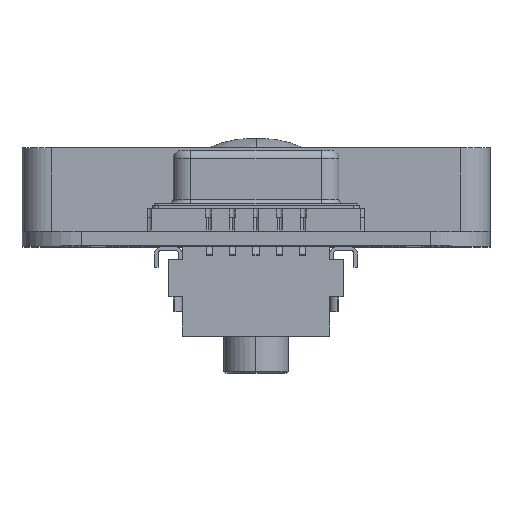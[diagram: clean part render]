
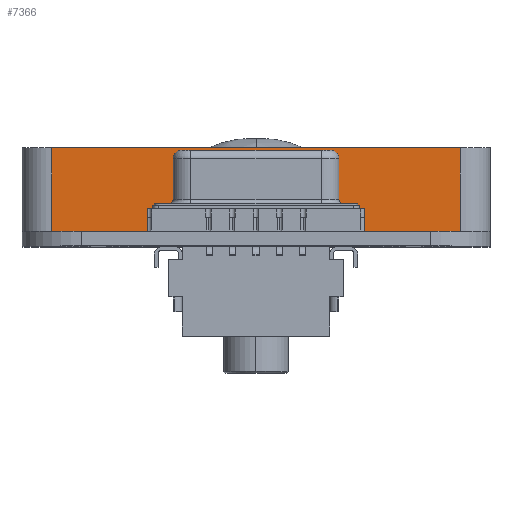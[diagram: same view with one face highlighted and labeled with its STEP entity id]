
A CAD part, top view. The second image highlights one B-rep face of the part: STEP entity #7366.
In plain terms, the highlighted planar face has unit normal (0, 0, 1).
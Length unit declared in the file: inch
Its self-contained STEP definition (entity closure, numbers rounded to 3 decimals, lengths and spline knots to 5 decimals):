
#75 = ORIENTED_EDGE ( 'NONE', *, *, #20145, .F. ) ;
#1526 = AXIS2_PLACEMENT_3D ( 'NONE', #3062, #18305, #5241 ) ;
#3062 = CARTESIAN_POINT ( 'NONE',  ( -0.49409, 0.20842, 0.34843 ) ) ;
#3820 = VECTOR ( 'NONE', #25554, 39.37008 ) ;
#5241 = DIRECTION ( 'NONE',  ( -1., 0., 0. ) ) ;
#5549 = ORIENTED_EDGE ( 'NONE', *, *, #14847, .T. ) ;
#6888 = VERTEX_POINT ( 'NONE', #12246 ) ;
#7366 = ADVANCED_FACE ( 'NONE', ( #13708 ), #7369, .F. ) ;
#7369 = PLANE ( 'NONE',  #1526 ) ;
#7390 = CARTESIAN_POINT ( 'NONE',  ( -0.49409, 0.20842, 0.34843 ) ) ;
#7470 = VECTOR ( 'NONE', #8503, 39.37008 ) ;
#8135 = LINE ( 'NONE', #14992, #7470 ) ;
#8503 = DIRECTION ( 'NONE',  ( 0., -1., 0. ) ) ;
#8669 = CARTESIAN_POINT ( 'NONE',  ( -0.43159, 0.03125, 0.34843 ) ) ;
#8888 = VERTEX_POINT ( 'NONE', #8669 ) ;
#9351 = VECTOR ( 'NONE', #11951, 39.37008 ) ;
#9565 = DIRECTION ( 'NONE',  ( 1., 0., 0. ) ) ;
#9848 = CARTESIAN_POINT ( 'NONE',  ( -0.43159, 0.20842, 0.34843 ) ) ;
#11363 = CARTESIAN_POINT ( 'NONE',  ( -0.43159, 0.20842, 0.34843 ) ) ;
#11837 = EDGE_CURVE ( 'NONE', #8888, #12984, #26122, .T. ) ;
#11951 = DIRECTION ( 'NONE',  ( 0., 1., 0. ) ) ;
#12246 = CARTESIAN_POINT ( 'NONE',  ( 0.43159, 0.03125, 0.34843 ) ) ;
#12488 = VERTEX_POINT ( 'NONE', #23023 ) ;
#12984 = VERTEX_POINT ( 'NONE', #11363 ) ;
#13708 = FACE_OUTER_BOUND ( 'NONE', #24691, .T. ) ;
#14847 = EDGE_CURVE ( 'NONE', #8888, #6888, #24005, .T. ) ;
#14992 = CARTESIAN_POINT ( 'NONE',  ( 0.43159, 0.20842, 0.34843 ) ) ;
#15429 = LINE ( 'NONE', #7390, #26387 ) ;
#17758 = EDGE_CURVE ( 'NONE', #12488, #6888, #8135, .T. ) ;
#18305 = DIRECTION ( 'NONE',  ( 0., 0., -1. ) ) ;
#20145 = EDGE_CURVE ( 'NONE', #12984, #12488, #15429, .T. ) ;
#21213 = CARTESIAN_POINT ( 'NONE',  ( 0., 0.03125, 0.34843 ) ) ;
#23023 = CARTESIAN_POINT ( 'NONE',  ( 0.43159, 0.20842, 0.34843 ) ) ;
#23839 = ORIENTED_EDGE ( 'NONE', *, *, #11837, .F. ) ;
#24005 = LINE ( 'NONE', #21213, #3820 ) ;
#24691 = EDGE_LOOP ( 'NONE', ( #25199, #75, #23839, #5549 ) ) ;
#25199 = ORIENTED_EDGE ( 'NONE', *, *, #17758, .F. ) ;
#25554 = DIRECTION ( 'NONE',  ( 1., 0., 0. ) ) ;
#26122 = LINE ( 'NONE', #9848, #9351 ) ;
#26387 = VECTOR ( 'NONE', #9565, 39.37008 ) ;
